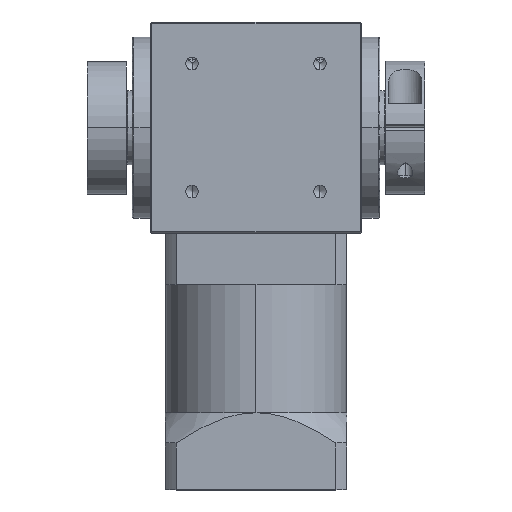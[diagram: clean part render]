
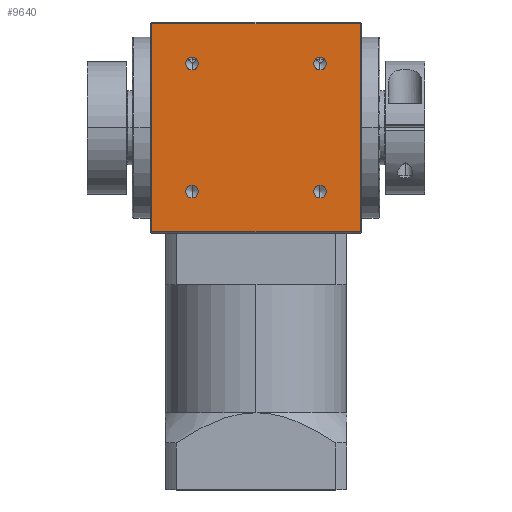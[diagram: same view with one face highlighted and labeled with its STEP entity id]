
A CAD part, top view. The second image highlights one B-rep face of the part: STEP entity #9640.
In plain terms, the highlighted planar face has unit normal (0, 0, 1).
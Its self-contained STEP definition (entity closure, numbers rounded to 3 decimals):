
#121 = ORIENTED_EDGE ( 'NONE', *, *, #143, .F. ) ;
#143 = EDGE_CURVE ( 'NONE', #6134, #1056, #1559, .T. ) ;
#155 = EDGE_CURVE ( 'NONE', #163, #2235, #6871, .T. ) ;
#163 = VERTEX_POINT ( 'NONE', #5104 ) ;
#237 = EDGE_LOOP ( 'NONE', ( #4180, #3859 ) ) ;
#256 = CARTESIAN_POINT ( 'NONE',  ( 21.2, 23.3, 35. ) ) ;
#274 = EDGE_LOOP ( 'NONE', ( #318, #5647 ) ) ;
#283 = VERTEX_POINT ( 'NONE', #4785 ) ;
#298 = CIRCLE ( 'NONE', #1938, 2.1 ) ;
#300 = ORIENTED_EDGE ( 'NONE', *, *, #4283, .F. ) ;
#318 = ORIENTED_EDGE ( 'NONE', *, *, #10531, .F. ) ;
#558 = CARTESIAN_POINT ( 'NONE',  ( 21.2, 19.1, 35. ) ) ;
#587 = DIRECTION ( 'NONE',  ( 0., 0., 1. ) ) ;
#1056 = VERTEX_POINT ( 'NONE', #256 ) ;
#1201 = DIRECTION ( 'NONE',  ( 0., 0., -1. ) ) ;
#1206 = EDGE_CURVE ( 'NONE', #283, #5155, #2973, .T. ) ;
#1210 = DIRECTION ( 'NONE',  ( -1., 0., 0. ) ) ;
#1224 = CARTESIAN_POINT ( 'NONE',  ( 0., 0., 35. ) ) ;
#1338 = VECTOR ( 'NONE', #2698, 1000. ) ;
#1467 = EDGE_CURVE ( 'NONE', #2235, #5016, #2324, .T. ) ;
#1559 = CIRCLE ( 'NONE', #9947, 2.1 ) ;
#1808 = AXIS2_PLACEMENT_3D ( 'NONE', #4860, #4859, #4822 ) ;
#1840 = EDGE_LOOP ( 'NONE', ( #300, #7246 ) ) ;
#1919 = PLANE ( 'NONE',  #2383 ) ;
#1938 = AXIS2_PLACEMENT_3D ( 'NONE', #7890, #7886, #7870 ) ;
#1940 = EDGE_CURVE ( 'NONE', #9992, #8491, #4329, .T. ) ;
#1943 = FACE_BOUND ( 'NONE', #274, .T. ) ;
#1955 = CIRCLE ( 'NONE', #1808, 2.1 ) ;
#2065 = EDGE_CURVE ( 'NONE', #1056, #6134, #6415, .T. ) ;
#2235 = VERTEX_POINT ( 'NONE', #8449 ) ;
#2324 = LINE ( 'NONE', #3311, #1338 ) ;
#2341 = EDGE_CURVE ( 'NONE', #3123, #5016, #8692, .T. ) ;
#2383 = AXIS2_PLACEMENT_3D ( 'NONE', #1224, #1201, #1210 ) ;
#2402 = EDGE_CURVE ( 'NONE', #7030, #3673, #7955, .T. ) ;
#2585 = ORIENTED_EDGE ( 'NONE', *, *, #2341, .T. ) ;
#2617 = CARTESIAN_POINT ( 'NONE',  ( -21.2, 19.1, 35. ) ) ;
#2690 = ORIENTED_EDGE ( 'NONE', *, *, #155, .F. ) ;
#2698 = DIRECTION ( 'NONE',  ( 0., -1., 0. ) ) ;
#2787 = CARTESIAN_POINT ( 'NONE',  ( -21.2, -23.3, 35. ) ) ;
#2973 = CIRCLE ( 'NONE', #9651, 2.1 ) ;
#3007 = CARTESIAN_POINT ( 'NONE',  ( 21.2, -23.3, 35. ) ) ;
#3010 = FACE_BOUND ( 'NONE', #1840, .T. ) ;
#3123 = VERTEX_POINT ( 'NONE', #4432 ) ;
#3311 = CARTESIAN_POINT ( 'NONE',  ( 34.5, 0., 35. ) ) ;
#3478 = EDGE_LOOP ( 'NONE', ( #2585, #7125, #2690, #10432 ) ) ;
#3587 = EDGE_LOOP ( 'NONE', ( #121, #6734 ) ) ;
#3673 = VERTEX_POINT ( 'NONE', #2617 ) ;
#3816 = CARTESIAN_POINT ( 'NONE',  ( 34.5, -34.5, 35. ) ) ;
#3859 = ORIENTED_EDGE ( 'NONE', *, *, #2402, .F. ) ;
#3994 = CARTESIAN_POINT ( 'NONE',  ( -34.5, 0., 35. ) ) ;
#4180 = ORIENTED_EDGE ( 'NONE', *, *, #10196, .F. ) ;
#4201 = DIRECTION ( 'NONE',  ( 0., 1., 0. ) ) ;
#4283 = EDGE_CURVE ( 'NONE', #8491, #9992, #9324, .T. ) ;
#4329 = CIRCLE ( 'NONE', #9453, 2.1 ) ;
#4432 = CARTESIAN_POINT ( 'NONE',  ( -34.5, -34.5, 35. ) ) ;
#4785 = CARTESIAN_POINT ( 'NONE',  ( 21.2, -19.1, 35. ) ) ;
#4822 = DIRECTION ( 'NONE',  ( 0., -1., 0. ) ) ;
#4859 = DIRECTION ( 'NONE',  ( 0., 0., 1. ) ) ;
#4860 = CARTESIAN_POINT ( 'NONE',  ( 21.2, -21.2, 35. ) ) ;
#4988 = EDGE_CURVE ( 'NONE', #3123, #163, #6269, .T. ) ;
#5016 = VERTEX_POINT ( 'NONE', #3816 ) ;
#5104 = CARTESIAN_POINT ( 'NONE',  ( -34.5, 34.5, 35. ) ) ;
#5155 = VERTEX_POINT ( 'NONE', #3007 ) ;
#5165 = DIRECTION ( 'NONE',  ( 1., 0., 0. ) ) ;
#5178 = DIRECTION ( 'NONE',  ( 0., -1., 0. ) ) ;
#5179 = DIRECTION ( 'NONE',  ( 0., 0., 1. ) ) ;
#5204 = CARTESIAN_POINT ( 'NONE',  ( 21.2, 21.2, 35. ) ) ;
#5224 = FACE_BOUND ( 'NONE', #3587, .T. ) ;
#5358 = CARTESIAN_POINT ( 'NONE',  ( 0., 34.5, 35. ) ) ;
#5530 = CARTESIAN_POINT ( 'NONE',  ( -21.2, -19.1, 35. ) ) ;
#5626 = DIRECTION ( 'NONE',  ( 0., -1., 0. ) ) ;
#5647 = ORIENTED_EDGE ( 'NONE', *, *, #1206, .F. ) ;
#6134 = VERTEX_POINT ( 'NONE', #558 ) ;
#6269 = LINE ( 'NONE', #3994, #6905 ) ;
#6367 = FACE_BOUND ( 'NONE', #237, .T. ) ;
#6415 = CIRCLE ( 'NONE', #9444, 2.1 ) ;
#6734 = ORIENTED_EDGE ( 'NONE', *, *, #2065, .F. ) ;
#6871 = LINE ( 'NONE', #5358, #7109 ) ;
#6905 = VECTOR ( 'NONE', #4201, 1000. ) ;
#7030 = VERTEX_POINT ( 'NONE', #9404 ) ;
#7109 = VECTOR ( 'NONE', #5165, 1000. ) ;
#7125 = ORIENTED_EDGE ( 'NONE', *, *, #1467, .F. ) ;
#7246 = ORIENTED_EDGE ( 'NONE', *, *, #1940, .F. ) ;
#7264 = FACE_OUTER_BOUND ( 'NONE', #3478, .T. ) ;
#7562 = DIRECTION ( 'NONE',  ( 0., -1., 0. ) ) ;
#7578 = DIRECTION ( 'NONE',  ( 0., 0., 1. ) ) ;
#7599 = CARTESIAN_POINT ( 'NONE',  ( -21.2, 21.2, 35. ) ) ;
#7749 = AXIS2_PLACEMENT_3D ( 'NONE', #9807, #9795, #9771 ) ;
#7870 = DIRECTION ( 'NONE',  ( 0., -1., 0. ) ) ;
#7886 = DIRECTION ( 'NONE',  ( 0., 0., 1. ) ) ;
#7890 = CARTESIAN_POINT ( 'NONE',  ( -21.2, 21.2, 35. ) ) ;
#7926 = DIRECTION ( 'NONE',  ( 1., 0., 0. ) ) ;
#7953 = CARTESIAN_POINT ( 'NONE',  ( 0., -34.5, 35. ) ) ;
#7955 = CIRCLE ( 'NONE', #9325, 2.1 ) ;
#8172 = VECTOR ( 'NONE', #7926, 1000. ) ;
#8449 = CARTESIAN_POINT ( 'NONE',  ( 34.5, 34.5, 35. ) ) ;
#8491 = VERTEX_POINT ( 'NONE', #2787 ) ;
#8692 = LINE ( 'NONE', #7953, #8172 ) ;
#9154 = DIRECTION ( 'NONE',  ( 0., -1., 0. ) ) ;
#9157 = DIRECTION ( 'NONE',  ( 0., 0., 1. ) ) ;
#9177 = CARTESIAN_POINT ( 'NONE',  ( 21.2, 21.2, 35. ) ) ;
#9324 = CIRCLE ( 'NONE', #7749, 2.1 ) ;
#9325 = AXIS2_PLACEMENT_3D ( 'NONE', #7599, #7578, #7562 ) ;
#9404 = CARTESIAN_POINT ( 'NONE',  ( -21.2, 23.3, 35. ) ) ;
#9444 = AXIS2_PLACEMENT_3D ( 'NONE', #9177, #9157, #9154 ) ;
#9453 = AXIS2_PLACEMENT_3D ( 'NONE', #9625, #9623, #9603 ) ;
#9603 = DIRECTION ( 'NONE',  ( 0., -1., 0. ) ) ;
#9623 = DIRECTION ( 'NONE',  ( 0., 0., 1. ) ) ;
#9625 = CARTESIAN_POINT ( 'NONE',  ( -21.2, -21.2, 35. ) ) ;
#9640 = ADVANCED_FACE ( 'NONE', ( #1943, #3010, #5224, #6367, #7264 ), #1919, .F. ) ;
#9651 = AXIS2_PLACEMENT_3D ( 'NONE', #10442, #587, #5626 ) ;
#9771 = DIRECTION ( 'NONE',  ( 0., -1., 0. ) ) ;
#9795 = DIRECTION ( 'NONE',  ( 0., 0., 1. ) ) ;
#9807 = CARTESIAN_POINT ( 'NONE',  ( -21.2, -21.2, 35. ) ) ;
#9947 = AXIS2_PLACEMENT_3D ( 'NONE', #5204, #5179, #5178 ) ;
#9992 = VERTEX_POINT ( 'NONE', #5530 ) ;
#10196 = EDGE_CURVE ( 'NONE', #3673, #7030, #298, .T. ) ;
#10432 = ORIENTED_EDGE ( 'NONE', *, *, #4988, .F. ) ;
#10442 = CARTESIAN_POINT ( 'NONE',  ( 21.2, -21.2, 35. ) ) ;
#10531 = EDGE_CURVE ( 'NONE', #5155, #283, #1955, .T. ) ;
